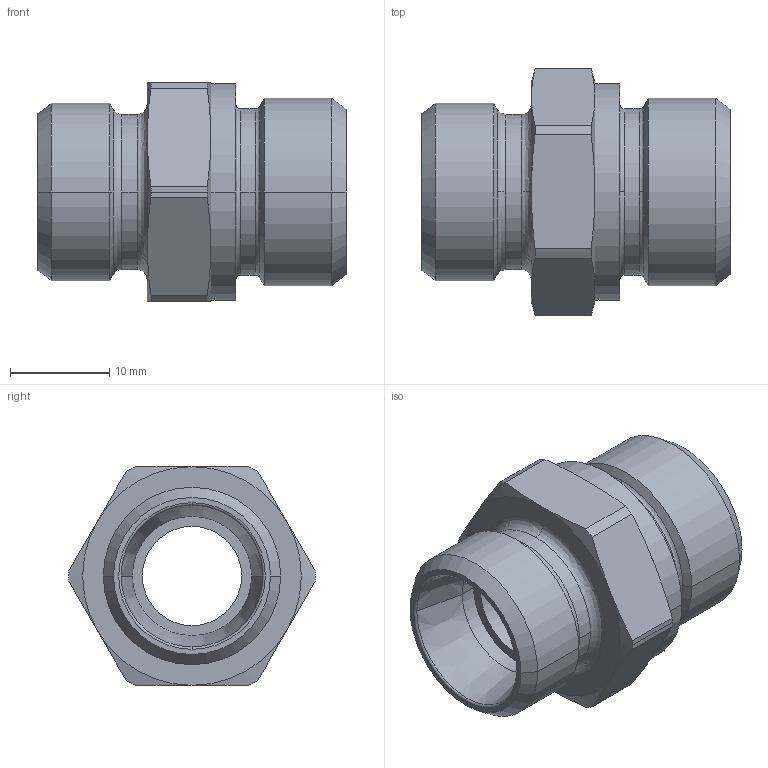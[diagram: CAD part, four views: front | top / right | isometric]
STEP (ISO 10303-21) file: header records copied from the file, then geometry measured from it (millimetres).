
FILE_DESCRIPTION((''),'2;1');
FILE_NAME('100926.stp','2007-10-30T15:30:21',(''),(''),'AutoCAD STEP 2000i','AutoCAD 2000i',', , ');
FILE_SCHEMA(('CONFIG_CONTROL_DESIGN'));
Length unit declared in the file: millimetre
Products named in the file (2): 100926.0; CHIAVE SMUSSATA#0
Assembly tree (1 placements, depth 2):
  100926.0
    CHIAVE SMUSSATA#0
Bounding box: 31 x 24.8 x 22 mm (x, y, z)
Volume: 6207.9 mm3; surface area: 3583.7 mm2
Topology: 1 solids, 1 shells, 68 faces, 165 edges, 103 vertices
Faces by surface type: cone 24, cylinder 22, plane 12, bspline 8, torus 2
Entity records: 2431 total; most frequent: CARTESIAN_POINT 738, DIRECTION 366, ORIENTED_EDGE 330, EDGE_CURVE 165, AXIS2_PLACEMENT_3D 163, VERTEX_POINT 103, CIRCLE 101, EDGE_LOOP 74
